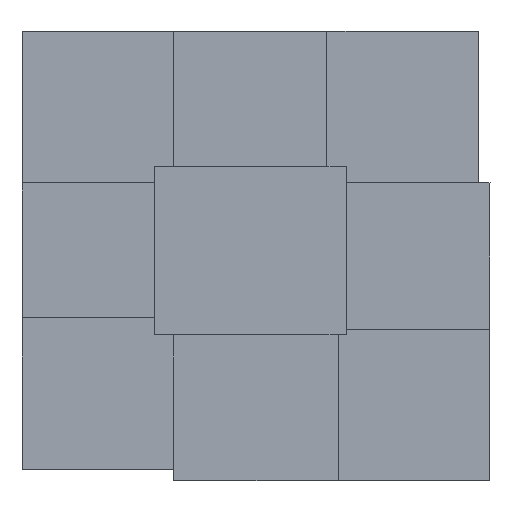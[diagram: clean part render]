
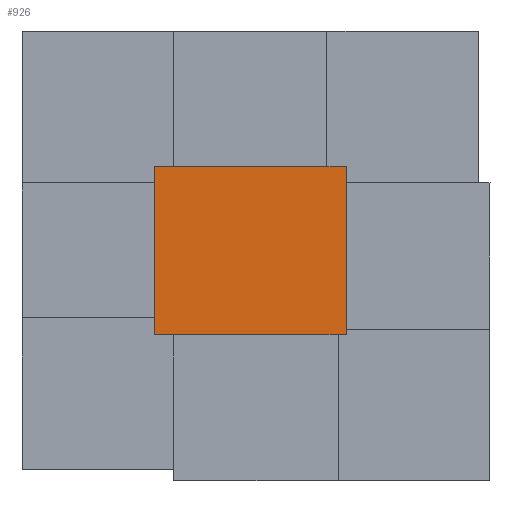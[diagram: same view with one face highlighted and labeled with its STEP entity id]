
A CAD part, left-side view. The second image highlights one B-rep face of the part: STEP entity #926.
In plain terms, the highlighted planar face has unit normal (-1, 0, 0).
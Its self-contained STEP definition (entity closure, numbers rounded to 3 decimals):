
#808=CARTESIAN_POINT('Line Origine',(0.,0.,55.5)) ;
#812=CARTESIAN_POINT('Vertex',(0.,0.,0.)) ;
#814=CARTESIAN_POINT('Vertex',(0.,0.,111.)) ;
#883=CARTESIAN_POINT('Vertex',(0.,126.,0.)) ;
#886=CARTESIAN_POINT('Line Origine',(0.,126.,55.5)) ;
#890=CARTESIAN_POINT('Vertex',(0.,126.,111.)) ;
#905=CARTESIAN_POINT('Axis2P3D Location',(0.,126.,0.)) ;
#910=CARTESIAN_POINT('Line Origine',(0.,63.,0.)) ;
#915=CARTESIAN_POINT('Line Origine',(0.,63.,111.)) ;
#809=DIRECTION('Vector Direction',(0.,0.,1.)) ;
#887=DIRECTION('Vector Direction',(0.,0.,1.)) ;
#906=DIRECTION('Axis2P3D Direction',(-1.,0.,0.)) ;
#907=DIRECTION('Axis2P3D XDirection',(0.,-1.,0.)) ;
#911=DIRECTION('Vector Direction',(0.,-1.,0.)) ;
#916=DIRECTION('Vector Direction',(0.,-1.,0.)) ;
#908=AXIS2_PLACEMENT_3D('Plane Axis2P3D',#905,#906,#907) ;
#921=ORIENTED_EDGE('',*,*,#892,.F.) ;
#922=ORIENTED_EDGE('',*,*,#914,.T.) ;
#923=ORIENTED_EDGE('',*,*,#816,.T.) ;
#924=ORIENTED_EDGE('',*,*,#919,.F.) ;
#810=VECTOR('Line Direction',#809,1.) ;
#888=VECTOR('Line Direction',#887,1.) ;
#912=VECTOR('Line Direction',#911,1.) ;
#917=VECTOR('Line Direction',#916,1.) ;
#926=ADVANCED_FACE('Body.2-molde-superior',(#925),#909,.T.) ;
#816=EDGE_CURVE('',#813,#815,#811,.T.) ;
#892=EDGE_CURVE('',#884,#891,#889,.T.) ;
#914=EDGE_CURVE('',#884,#813,#913,.T.) ;
#919=EDGE_CURVE('',#891,#815,#918,.T.) ;
#920=EDGE_LOOP('',(#921,#922,#923,#924)) ;
#925=FACE_OUTER_BOUND('',#920,.T.) ;
#811=LINE('Line',#808,#810) ;
#889=LINE('Line',#886,#888) ;
#913=LINE('Line',#910,#912) ;
#918=LINE('Line',#915,#917) ;
#909=PLANE('',#908) ;
#813=VERTEX_POINT('',#812) ;
#815=VERTEX_POINT('',#814) ;
#884=VERTEX_POINT('',#883) ;
#891=VERTEX_POINT('',#890) ;
